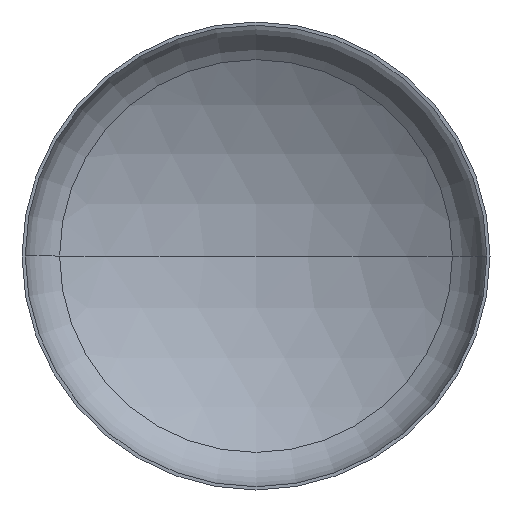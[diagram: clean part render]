
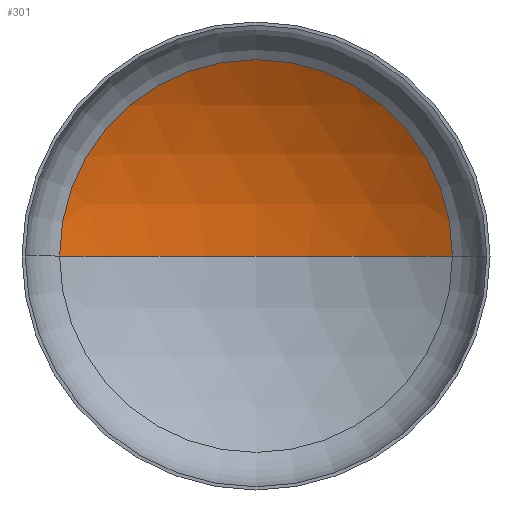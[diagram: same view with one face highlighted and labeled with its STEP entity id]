
A CAD part, front view. The second image highlights one B-rep face of the part: STEP entity #301.
In plain terms, the highlighted spherical face has radius 5600 mm.
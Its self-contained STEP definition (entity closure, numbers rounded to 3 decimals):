
#27 = ORIENTED_EDGE ( 'NONE', *, *, #149, .F. ) ;
#28 = VERTEX_POINT ( 'NONE', #253 ) ;
#42 = AXIS2_PLACEMENT_3D ( 'NONE', #334, #162, #264 ) ;
#64 = VERTEX_POINT ( 'NONE', #180 ) ;
#86 = ORIENTED_EDGE ( 'NONE', *, *, #145, .T. ) ;
#96 = VERTEX_POINT ( 'NONE', #209 ) ;
#100 = AXIS2_PLACEMENT_3D ( 'NONE', #308, #309, #316 ) ;
#102 = AXIS2_PLACEMENT_3D ( 'NONE', #284, #236, #287 ) ;
#106 = AXIS2_PLACEMENT_3D ( 'NONE', #155, #260, #186 ) ;
#110 = EDGE_LOOP ( 'NONE', ( #27, #307, #86 ) ) ;
#134 = CIRCLE ( 'NONE', #102, 5600. ) ;
#145 = EDGE_CURVE ( 'NONE', #64, #96, #221, .T. ) ;
#147 = EDGE_CURVE ( 'NONE', #28, #64, #134, .T. ) ;
#149 = EDGE_CURVE ( 'NONE', #28, #96, #339, .T. ) ;
#155 = CARTESIAN_POINT ( 'NONE',  ( 0., 1069.485, 0. ) ) ;
#162 = DIRECTION ( 'NONE',  ( 0., 0., -1. ) ) ;
#180 = CARTESIAN_POINT ( 'NONE',  ( 2937.522, 1069.485, 0. ) ) ;
#186 = DIRECTION ( 'NONE',  ( 1., 0., 0. ) ) ;
#209 = CARTESIAN_POINT ( 'NONE',  ( -2937.522, 1069.485, 0. ) ) ;
#221 = CIRCLE ( 'NONE', #106, 2937.522 ) ;
#236 = DIRECTION ( 'NONE',  ( 0., 0., -1. ) ) ;
#250 = FACE_OUTER_BOUND ( 'NONE', #110, .T. ) ;
#253 = CARTESIAN_POINT ( 'NONE',  ( 0., 1901.785, 0. ) ) ;
#260 = DIRECTION ( 'NONE',  ( 0., -1., 0. ) ) ;
#264 = DIRECTION ( 'NONE',  ( -1., 0., 0. ) ) ;
#284 = CARTESIAN_POINT ( 'NONE',  ( 0., -3698.215, 0. ) ) ;
#287 = DIRECTION ( 'NONE',  ( -1., 0., 0. ) ) ;
#301 = ADVANCED_FACE ( 'NONE', ( #250 ), #324, .F. ) ;
#307 = ORIENTED_EDGE ( 'NONE', *, *, #147, .T. ) ;
#308 = CARTESIAN_POINT ( 'NONE',  ( 0., -3698.215, 0. ) ) ;
#309 = DIRECTION ( 'NONE',  ( 0., 0., 1. ) ) ;
#316 = DIRECTION ( 'NONE',  ( 1., 0., 0. ) ) ;
#324 = SPHERICAL_SURFACE ( 'NONE', #42, 5600. ) ;
#334 = CARTESIAN_POINT ( 'NONE',  ( 0., -3698.215, 0. ) ) ;
#339 = CIRCLE ( 'NONE', #100, 5600. ) ;
